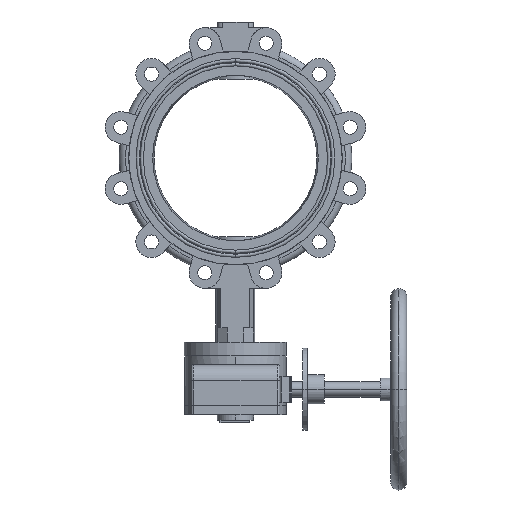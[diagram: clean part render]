
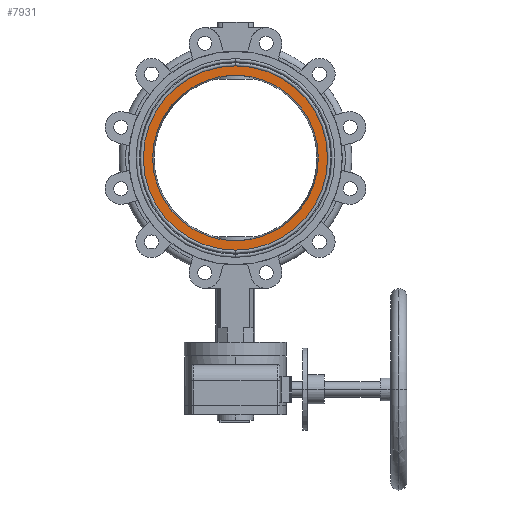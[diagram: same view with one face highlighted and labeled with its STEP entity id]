
A CAD part, front view. The second image highlights one B-rep face of the part: STEP entity #7931.
In plain terms, the highlighted planar face has unit normal (0, -1, 0).
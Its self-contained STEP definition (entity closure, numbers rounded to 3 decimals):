
#600 = CARTESIAN_POINT ( 'NONE',  ( 0., -31., 102.95 ) ) ;
#777 = DIRECTION ( 'NONE',  ( 0., 0., 1. ) ) ;
#808 = CARTESIAN_POINT ( 'NONE',  ( 0., -31., 0. ) ) ;
#831 = DIRECTION ( 'NONE',  ( 0., 0., 1. ) ) ;
#1277 = CIRCLE ( 'NONE', #6836, 114.5 ) ;
#1462 = VERTEX_POINT ( 'NONE', #10964 ) ;
#1671 = FACE_BOUND ( 'NONE', #4199, .T. ) ;
#1672 = ORIENTED_EDGE ( 'NONE', *, *, #1790, .T. ) ;
#1694 = VERTEX_POINT ( 'NONE', #6942 ) ;
#1790 = EDGE_CURVE ( 'NONE', #11562, #1694, #3153, .T. ) ;
#1838 = CARTESIAN_POINT ( 'NONE',  ( 0., -31., 0. ) ) ;
#2060 = CARTESIAN_POINT ( 'NONE',  ( 0., -31., 114.5 ) ) ;
#2697 = CARTESIAN_POINT ( 'NONE',  ( 0., -31., 0. ) ) ;
#2795 = VERTEX_POINT ( 'NONE', #2060 ) ;
#3153 = CIRCLE ( 'NONE', #9964, 102.95 ) ;
#3629 = ORIENTED_EDGE ( 'NONE', *, *, #7275, .F. ) ;
#3683 = DIRECTION ( 'NONE',  ( 0., 1., 0. ) ) ;
#3751 = DIRECTION ( 'NONE',  ( 0., 0., 1. ) ) ;
#4199 = EDGE_LOOP ( 'NONE', ( #11544, #1672 ) ) ;
#4875 = FACE_OUTER_BOUND ( 'NONE', #10486, .T. ) ;
#5219 = EDGE_CURVE ( 'NONE', #1462, #2795, #1277, .T. ) ;
#5391 = DIRECTION ( 'NONE',  ( 0., 1., 0. ) ) ;
#5743 = PLANE ( 'NONE',  #12735 ) ;
#5904 = AXIS2_PLACEMENT_3D ( 'NONE', #10317, #5391, #9579 ) ;
#6766 = DIRECTION ( 'NONE',  ( 0., 1., 0. ) ) ;
#6836 = AXIS2_PLACEMENT_3D ( 'NONE', #2697, #6766, #831 ) ;
#6942 = CARTESIAN_POINT ( 'NONE',  ( 0., -31., -102.95 ) ) ;
#7275 = EDGE_CURVE ( 'NONE', #2795, #1462, #9988, .T. ) ;
#7579 = CIRCLE ( 'NONE', #5904, 102.95 ) ;
#7651 = AXIS2_PLACEMENT_3D ( 'NONE', #1838, #12070, #777 ) ;
#7931 = ADVANCED_FACE ( 'NONE', ( #4875, #1671 ), #5743, .F. ) ;
#9579 = DIRECTION ( 'NONE',  ( 0., 0., 1. ) ) ;
#9636 = ORIENTED_EDGE ( 'NONE', *, *, #5219, .F. ) ;
#9793 = DIRECTION ( 'NONE',  ( 0., 1., 0. ) ) ;
#9964 = AXIS2_PLACEMENT_3D ( 'NONE', #808, #3683, #3751 ) ;
#9988 = CIRCLE ( 'NONE', #7651, 114.5 ) ;
#10317 = CARTESIAN_POINT ( 'NONE',  ( 0., -31., 0. ) ) ;
#10486 = EDGE_LOOP ( 'NONE', ( #3629, #9636 ) ) ;
#10964 = CARTESIAN_POINT ( 'NONE',  ( 0., -31., -114.5 ) ) ;
#11544 = ORIENTED_EDGE ( 'NONE', *, *, #11884, .T. ) ;
#11562 = VERTEX_POINT ( 'NONE', #600 ) ;
#11884 = EDGE_CURVE ( 'NONE', #1694, #11562, #7579, .T. ) ;
#12070 = DIRECTION ( 'NONE',  ( 0., 1., 0. ) ) ;
#12735 = AXIS2_PLACEMENT_3D ( 'NONE', #12981, #9793, #12849 ) ;
#12849 = DIRECTION ( 'NONE',  ( 0., 0., 1. ) ) ;
#12981 = CARTESIAN_POINT ( 'NONE',  ( 102.95, -31., 0. ) ) ;
